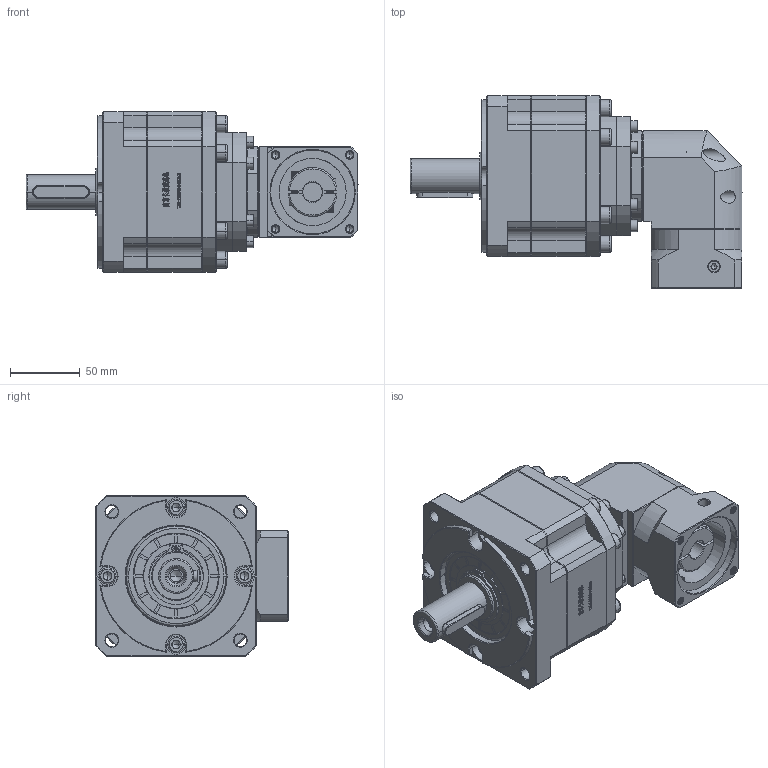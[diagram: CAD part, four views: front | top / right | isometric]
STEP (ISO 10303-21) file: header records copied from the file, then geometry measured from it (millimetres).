
FILE_DESCRIPTION (( 'STEP AP214' ), '1' );
FILE_NAME ('ZB115A-D25-L3-14-60-75-M6.step', '2023-03-03T08:02:41', ( '' ), ( 'Microsoft' ), 'SwSTEP 2.0', 'SolidWorks 2016', '' );
FILE_SCHEMA (( 'AUTOMOTIVE_DESIGN' ));
Length unit declared in the file: millimetre
Products named in the file (1): ZB115A-D25-L3-14-60-75-M6
Bounding box: 237.5 x 137.7 x 115 mm (x, y, z)
Volume: 1565309 mm3; surface area: 146755.4 mm2
Topology: 6 solids, 6 shells, 3234 faces, 8616 edges, 5544 vertices
Faces by surface type: plane 1719, bspline 625, cylinder 481, cone 389, torus 20
Entity records: 169995 total; most frequent: CARTESIAN_POINT 58620, ORIENTED_EDGE 17108, DIRECTION 13372, EDGE_CURVE 8554, VECTOR 5688, LINE 5688, VERTEX_POINT 5544, AXIS2_PLACEMENT_3D 3842
